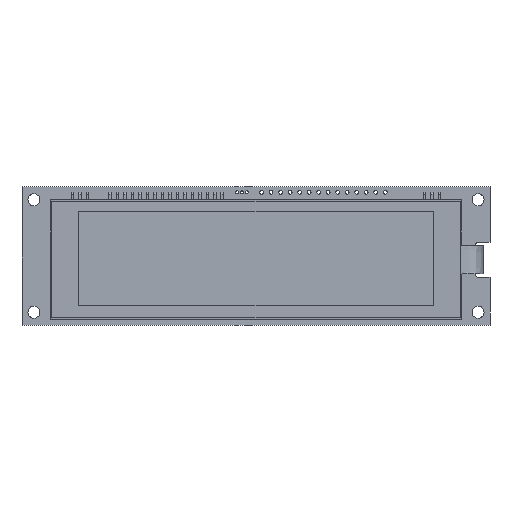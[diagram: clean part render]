
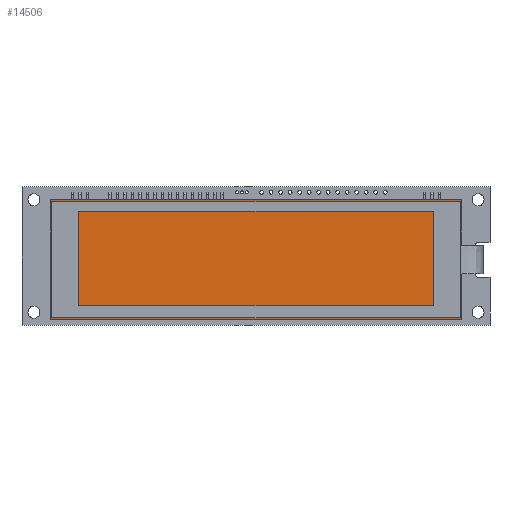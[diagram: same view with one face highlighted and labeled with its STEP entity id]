
A CAD part, top view. The second image highlights one B-rep face of the part: STEP entity #14506.
In plain terms, the highlighted planar face has unit normal (0, 0, 1).
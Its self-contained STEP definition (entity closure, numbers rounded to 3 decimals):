
#14391=DIRECTION('',(-1.,0.,0.));
#14392=VECTOR('',#14391,110.);
#14393=CARTESIAN_POINT('',(55.,15.,9.2));
#14394=LINE('',#14393,#14392);
#14395=DIRECTION('',(0.,1.,0.));
#14396=VECTOR('',#14395,32.);
#14397=CARTESIAN_POINT('',(55.,-17.,9.2));
#14398=LINE('',#14397,#14396);
#14399=DIRECTION('',(1.,0.,0.));
#14400=VECTOR('',#14399,110.);
#14401=CARTESIAN_POINT('',(-55.,-17.,9.2));
#14402=LINE('',#14401,#14400);
#14403=DIRECTION('',(0.,-1.,0.));
#14404=VECTOR('',#14403,32.);
#14405=CARTESIAN_POINT('',(-55.,15.,9.2));
#14406=LINE('',#14405,#14404);
#14415=CARTESIAN_POINT('',(55.,15.,9.2));
#14416=CARTESIAN_POINT('',(-55.,15.,9.2));
#14417=VERTEX_POINT('',#14415);
#14418=VERTEX_POINT('',#14416);
#14419=CARTESIAN_POINT('',(-55.,-17.,9.2));
#14420=VERTEX_POINT('',#14419);
#14421=CARTESIAN_POINT('',(55.,-17.,9.2));
#14422=VERTEX_POINT('',#14421);
#14495=CARTESIAN_POINT('',(-48.65,0.,9.2));
#14496=DIRECTION('',(0.,0.,1.));
#14497=DIRECTION('',(1.,0.,0.));
#14498=AXIS2_PLACEMENT_3D('',#14495,#14496,#14497);
#14499=PLANE('',#14498);
#14500=ORIENTED_EDGE('',*,*,#14447,.F.);
#14501=ORIENTED_EDGE('',*,*,#14462,.F.);
#14502=ORIENTED_EDGE('',*,*,#14476,.F.);
#14503=ORIENTED_EDGE('',*,*,#14489,.F.);
#14504=EDGE_LOOP('',(#14500,#14501,#14502,#14503));
#14505=FACE_OUTER_BOUND('',#14504,.F.);
#14447=EDGE_CURVE('',#14417,#14418,#14394,.T.);
#14462=EDGE_CURVE('',#14422,#14417,#14398,.T.);
#14476=EDGE_CURVE('',#14420,#14422,#14402,.T.);
#14489=EDGE_CURVE('',#14418,#14420,#14406,.T.);
#14506=ADVANCED_FACE('',(#14505),#14499,.T.);
